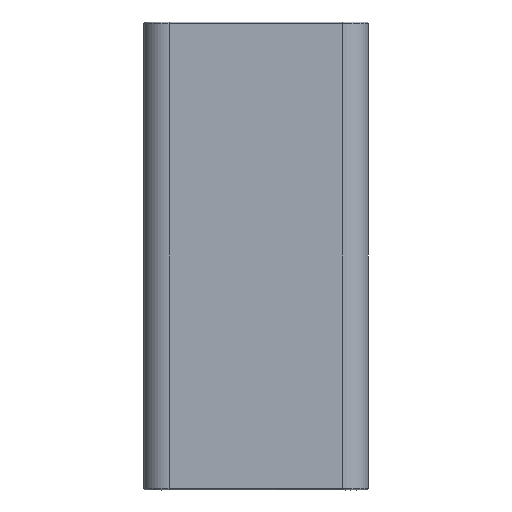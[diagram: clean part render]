
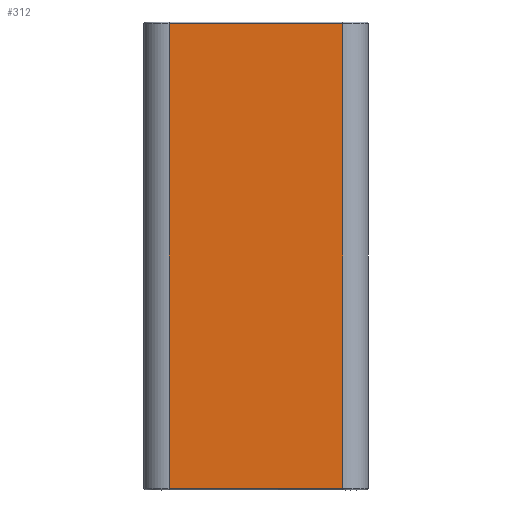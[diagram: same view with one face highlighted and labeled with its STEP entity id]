
A CAD part, left-side view. The second image highlights one B-rep face of the part: STEP entity #312.
In plain terms, the highlighted planar face has unit normal (-1, 0, 0).
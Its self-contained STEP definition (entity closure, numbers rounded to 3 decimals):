
#64=(
BOUNDED_CURVE()
B_SPLINE_CURVE(1,(#10795,#10796),.UNSPECIFIED.,.F.,.F.)
B_SPLINE_CURVE_WITH_KNOTS((2,2),(3.,832.),
 .UNSPECIFIED.)
CURVE()
GEOMETRIC_REPRESENTATION_ITEM()
RATIONAL_B_SPLINE_CURVE((1.,1.))
REPRESENTATION_ITEM('')
);
#65=(
BOUNDED_CURVE()
B_SPLINE_CURVE(1,(#10797,#10798),.UNSPECIFIED.,.F.,.F.)
B_SPLINE_CURVE_WITH_KNOTS((2,2),(3.,832.),
 .UNSPECIFIED.)
CURVE()
GEOMETRIC_REPRESENTATION_ITEM()
RATIONAL_B_SPLINE_CURVE((1.,1.))
REPRESENTATION_ITEM('')
);
#312=ADVANCED_FACE('',(#504),#2576,.T.);
#504=FACE_OUTER_BOUND('',#688,.T.);
#688=EDGE_LOOP('',(#1116,#1117,#1118,#1119));
#1116=ORIENTED_EDGE('',*,*,#1932,.T.);
#1117=ORIENTED_EDGE('',*,*,#1890,.F.);
#1118=ORIENTED_EDGE('',*,*,#1888,.T.);
#1119=ORIENTED_EDGE('',*,*,#1889,.T.);
#1888=EDGE_CURVE('',#2448,#2449,#2233,.T.);
#1889=EDGE_CURVE('',#2449,#2456,#64,.T.);
#1890=EDGE_CURVE('',#2448,#2457,#65,.T.);
#1932=EDGE_CURVE('',#2456,#2457,#2240,.T.);
#2233=B_SPLINE_CURVE_WITH_KNOTS('',1,(#10793,#10794),.UNSPECIFIED.,.F.,
 .F.,(2,2),(0.,310.),.UNSPECIFIED.);
#2240=B_SPLINE_CURVE_WITH_KNOTS('',1,(#10961,#10962),.UNSPECIFIED.,.F.,
 .F.,(2,2),(0.,310.),.UNSPECIFIED.);
#2448=VERTEX_POINT('',#9133);
#2449=VERTEX_POINT('',#9134);
#2456=VERTEX_POINT('',#9141);
#2457=VERTEX_POINT('',#9142);
#2576=PLANE('',#2729);
#2729=AXIS2_PLACEMENT_3D('',#3947,#2826,$);
#2826=DIRECTION('',(-1.,0.,0.));
#3947=CARTESIAN_POINT('',(13247.249,45.,-3841.761));
#9133=CARTESIAN_POINT('',(13247.249,45.,-3844.761));
#9134=CARTESIAN_POINT('',(13247.249,355.,-3844.761));
#9141=CARTESIAN_POINT('',(13247.249,355.,-4673.761));
#9142=CARTESIAN_POINT('',(13247.249,45.,-4673.761));
#10793=CARTESIAN_POINT('',(13247.249,45.,-3844.761));
#10794=CARTESIAN_POINT('',(13247.249,355.,-3844.761));
#10795=CARTESIAN_POINT('',(13247.249,355.,-3844.761));
#10796=CARTESIAN_POINT('',(13247.249,355.,-4673.761));
#10797=CARTESIAN_POINT('',(13247.249,45.,-3844.761));
#10798=CARTESIAN_POINT('',(13247.249,45.,-4673.761));
#10961=CARTESIAN_POINT('',(13247.249,355.,-4673.761));
#10962=CARTESIAN_POINT('',(13247.249,45.,-4673.761));
